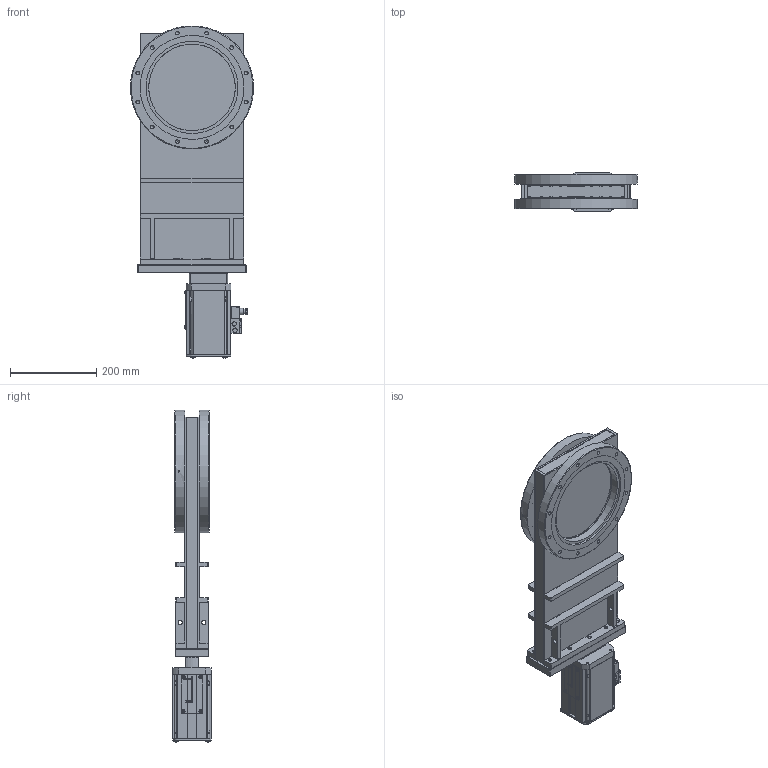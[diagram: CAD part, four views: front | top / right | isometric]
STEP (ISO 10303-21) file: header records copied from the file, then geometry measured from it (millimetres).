
FILE_DESCRIPTION(/* description */ (''),/* implementation_level */ '2;1');
FILE_NAME(/* name */ '1019408662_203.stp',/* time_stamp */ '2017-07-11T14:56:37+02:00',/* author */ (''),/* organization */ (''),/* preprocessor_version */ 'ST-DEVELOPER v15',/* originating_system */ 'SIEMENS PLM Software NX 9.0',/* authorisation */ '');
FILE_SCHEMA (('AP203_CONFIGURATION_CONTROLLED_3D_DESIGN_OF_MECHANICAL_PARTS_AND_ASSEMBLIES_MIM_LF { 1 0 10303 403 2 1 2}'));
Length unit declared in the file: millimetre
Products named in the file (48): 467882; 437235; n-6197-034.1; n-7100-007.2; 395614; 94220-01.1; 94224-01.2; 834044_28467ID; 834044_36422ID; 834044_36421ID; 834044_36420ID; 834046_36419ID; 834046_36418ID; 834046_36417ID; 834046_36416ID; 834014_28478ID; 834014_28477ID; 834006_28475ID; 834001_28473ID; 834001_28472ID; 833986_28470ID; 833986_28469ID; N-6024-538.1; 68057-01.1; N-7557-016_1.1; N-7557-018.1; N-7557-016_2.1; N-6024-524.1; N-5018-005.1; N-6024-571.1; 85949-01.1; 67114-01.1; n-6099-511.1; 23964-01.1_28464ID; 23964-01.1_28463ID; 65313-01.1; 570870; 74628-01.3; 69130-01.2; 778871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
Assembly tree (73 placements, depth 4):
  899355
    889066
      834047
        833986_28469ID
        833986_28470ID
        834001_28472ID
        834001_28473ID
        834006_28475ID
        834014_28477ID
        834014_28478ID
        834046_36416ID
        834046_36417ID
        834046_36418ID
        834046_36419ID
        834044_36420ID
        834044_36421ID
        834044_36422ID
        834044_28467ID
      23964-01.1_28463ID
      23964-01.1_28464ID
      n-6099-511.1  x2
    94237-r1.2
      67114-01.1  x4
      85949-01.1
      N-6024-571.1  x4
      395615
        94224-01.2
        94220-01.1
        395614
        n-7100-007.2  x2
        n-6197-034.1
    778871  x10
    69130-01.2
    74628-01.3
    570870
    65313-01.1
    94800-r1.7_NX-ARRAGMNTKONFIG1
      N-5018-005.1  x2
      N-6024-524.1  x6
      N-7557-016_2.1
      N-7557-018.1
      N-7557-016_1.1
      N-7557-016_3.1_MODELNX-ARRAGMNTArrangement 1
        437235
        467882
    78103-r1.1
      68057-01.1
      N-6024-538.1  x4
Bounding box: 285 x 90 x 767.8 mm (x, y, z)
Volume: 4733292.3 mm3; surface area: 1158998.8 mm2
Topology: 73 solids, 85 shells, 2262 faces, 5830 edges, 3892 vertices
Faces by surface type: plane 1552, cylinder 428, extrusion 112, cone 104, torus 43, sphere 21, bspline 2
Full cylindrical faces by diameter (mm): 0.7 x1, 0.725 x1, 1.5 x6, 2 x2, 2.125 x1, 2.5 x4, 2.65 x1, 3 x13, 3.2 x2, 3.3 x4, 3.4 x4, 3.5 x3, 4 x10, 4.05 x4, 4.2 x2, 4.22 x1, 4.3 x4, 4.35 x2, 4.4 x4, 4.5 x2, 4.625 x2, 5 x11, 5.4 x2, 5.5 x1, 5.8 x1, 5.9 x1, 6 x21, 6.6 x4, 6.85 x4, 7 x1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
Entity records: 66942 total; most frequent: CARTESIAN_POINT 15863, ORIENTED_EDGE 8654, DIRECTION 7979, EDGE_CURVE 4327, VERTEX_POINT 3114, VECTOR 2773, LINE 2661, AXIS2_PLACEMENT_3D 2603
